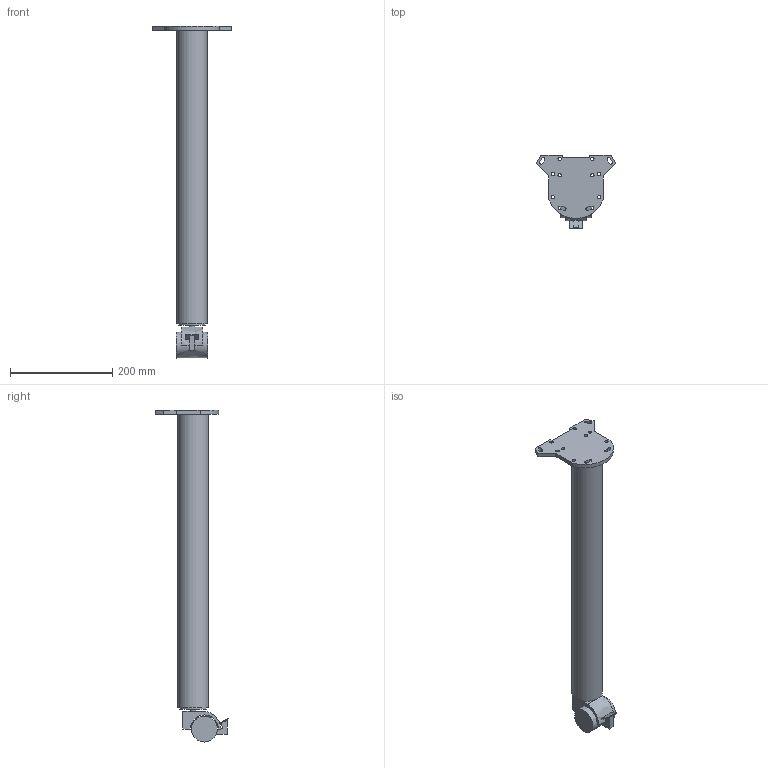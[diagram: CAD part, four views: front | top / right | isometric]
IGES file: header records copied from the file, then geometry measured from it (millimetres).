
Start section: Data from Parasolid IGES Translator 20.0.26, Copyright(c) 2006 Siemens P LM Software. All Rights Reserved.
Global section: file name: 70208.igs; native system: By Siemens PLM Incorporated; preprocessor: XPlus GENERIC/IGES 20.0.26; author: Noname; organization: Noname; date: 20210810.182328; units: millimetre
Bounding box: 155.69 x 143.63 x 650 mm (x, y, z)
Surface area: 176518.3 mm2 (no closed solid volume)
Topology: 0 solids, 0 shells, 76 faces, 394 edges, 372 vertices
Faces by surface type: extrusion 46, revolution 30
